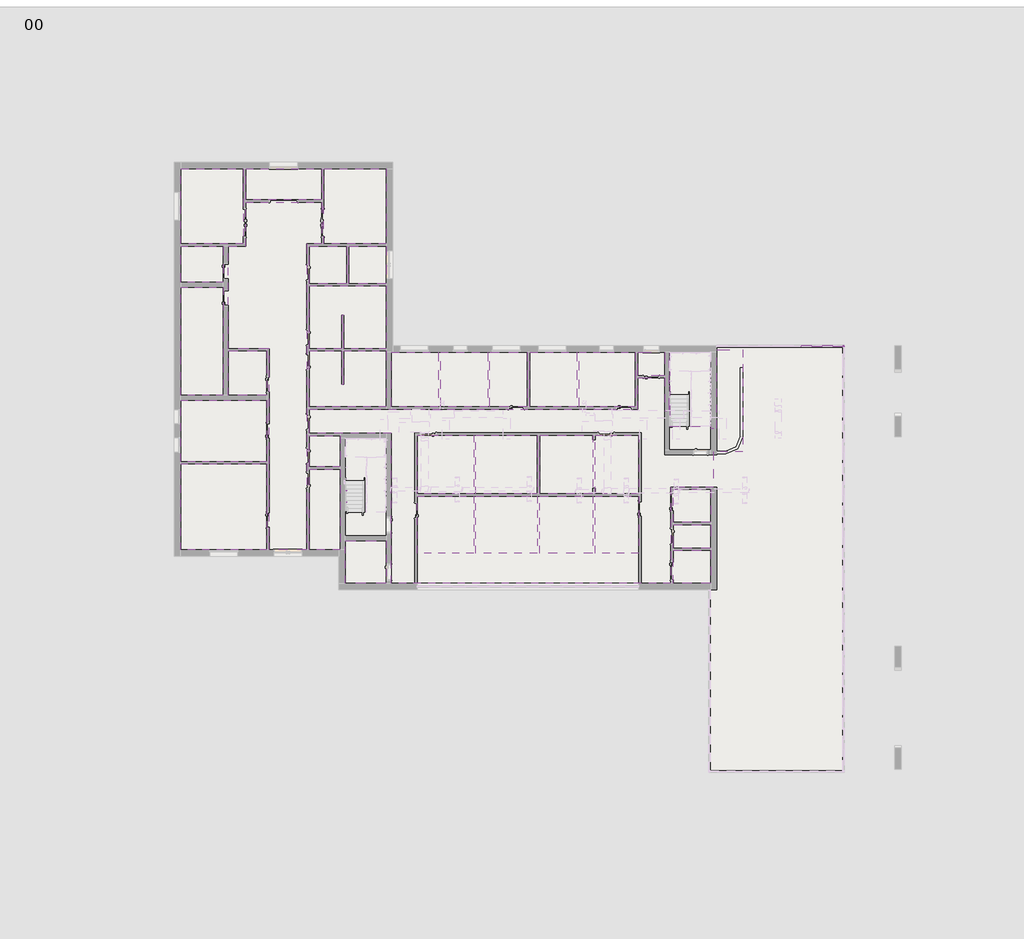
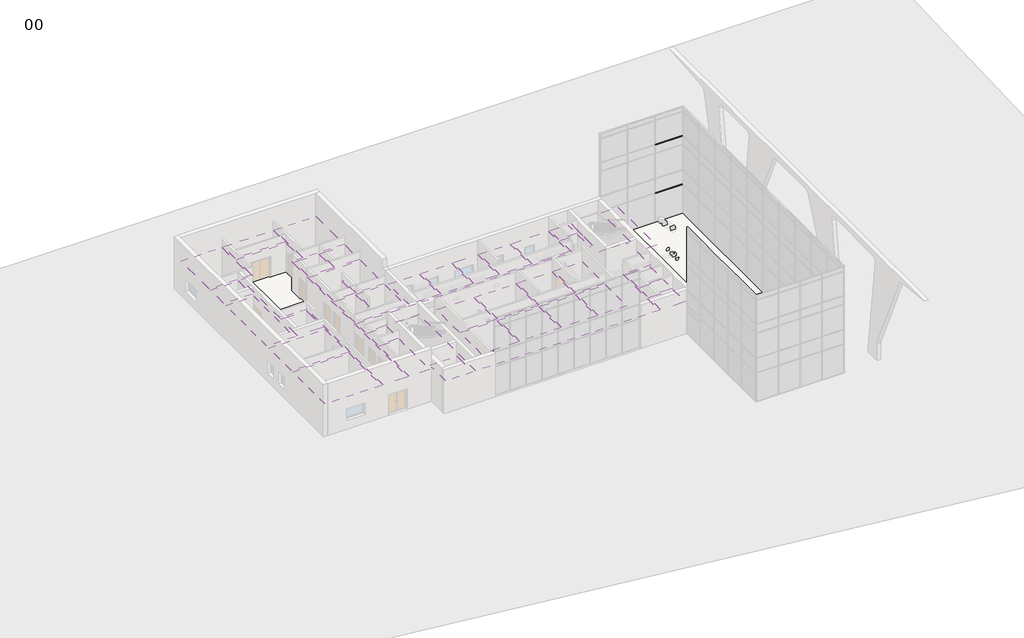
# One storey, part 8 of 12: 36 coverings, 5 members, 4 proxies, 1 slab.
"""IFC4 building model written with IfcOpenShell, lengths in millimetres."""

from ifc_helpers import new_model, si_unit, frame, origin, place, context, project, spatial, polyline, outline, extrude, transform, mapped, element, save
from components import support_circular_support_bend_943144f1, rectangular_mullion_curtainwallmullion_rectangular_generic_83e55909, rectangular_mullion_curtainwallmullion_rectangular_generic_2e425acd, rectangular_mullion_curtainwallmullion_rectangular_generic_3bdb59d8, rectangular_mullion_curtainwallmullion_rectangular_generic_d47b8a9d

model = new_model("IFC4")

# Units and contexts
model_context = context("Model", 3, world=origin())
ifc_project = project(units=[si_unit("LENGTHUNIT", "METRE", prefix="MILLI")], contexts=[model_context])

# Site, building, storey
site = spatial("IfcSite", under=ifc_project)
building = spatial("IfcBuilding", under=site)
storey = spatial("IfcBuildingStorey", under=building, Name="00", Elevation=0.0)

# Proxies
placement = place(None, origin())
support_circular_support_bend_shape = support_circular_support_bend_943144f1(model_context)
element("IfcBuildingElementProxy", 1, Name="Support_ Circular : Support_Bend", ObjectType="Support_ Circular : Support_Bend", at=placement, inside=storey, context=model_context, shape_type="MappedRepresentation", body=[
    mapped(support_circular_support_bend_shape, transform((422426.7206883, -391834.0026386, 1050.0), x_axis=(1.0, 0.0, 0.0), y_axis=(0.0, 1.0, 0.0), z_axis=(0.0, 0.0, 1.0))),
])
element("IfcBuildingElementProxy", 2, Name="Support_ Circular : Support_Bend", ObjectType="Support_ Circular : Support_Bend", at=placement, inside=storey, context=model_context, shape_type="MappedRepresentation", body=[
    mapped(support_circular_support_bend_shape, transform((422506.7206883, -391150.1319314, 1384.3224243), x_axis=(0.0, 1.0, 0.0), y_axis=(-1.0, 0.0, 0.0), z_axis=(0.0, 0.0, 1.0))),
])
element("IfcBuildingElementProxy", 3, Name="Support_ Circular : Support_Bend", ObjectType="Support_ Circular : Support_Bend", at=placement, inside=storey, context=model_context, shape_type="MappedRepresentation", body=[
    mapped(support_circular_support_bend_shape, transform((422506.7206883, -390406.2122145, 1830.6742544), x_axis=(0.0, 1.0, 0.0), y_axis=(-1.0, 0.0, 0.0), z_axis=(0.0, 0.0, 1.0))),
])
element("IfcBuildingElementProxy", 4, Name="Support_ Circular : Support_Bend", ObjectType="Support_ Circular : Support_Bend", at=placement, inside=storey, context=model_context, shape_type="MappedRepresentation", body=[
    mapped(support_circular_support_bend_shape, transform((422426.7206883, -391834.0026386, 1050.0), x_axis=(1.0, 0.0, 0.0), y_axis=(0.0, 1.0, 0.0), z_axis=(0.0, 0.0, 1.0))),
])

# Coverings
element("IfcCovering", 5, ObjectType="Ceiling_CompoundGeneric", at=placement, inside=storey, context=model_context, shape_type="SweptSolid", body=[
    extrude(outline(polyline([(443102.3206883, -385283.1646258), (443102.3206883, -383693.3886483), (443122.3206883, -383693.3886483), (443122.3206883, -386275.0026386), (445738.3206883, -386275.0026386), (445738.3206883, -386408.0026386), (446140.3206883, -386408.0026386), (446140.3206883, -381395.0026386), (447790.3206883, -381395.0026386), (447790.3206883, -387908.0026386), (445893.3206883, -387908.0026386), (445893.3206883, -390178.0026386), (443188.3206883, -390178.0026386), (443188.3206883, -396328.0026386), (425322.3206883, -396328.0026386), (425322.3206883, -386739.0026386), (422221.3206883, -386739.0026386), (420062.3206883, -386739.0026386), (420062.3206883, -385199.0026386), (425167.3206883, -385199.0026386), (441072.3206883, -385199.0026386), (441072.3206883, -383200.0026386), (442792.3206883, -383200.0026386), (442792.3206883, -385283.1646258), (443102.3206883, -385283.1646258)]), holes=[polyline([(426822.3206883, -394544.0026386), (441292.3206883, -394544.0026386), (441292.3206883, -386699.0026386), (426822.3206883, -386699.0026386), (426822.3206883, -394544.0026386)])]), frame((0.0, 0.0, 3000.0), z_axis=(0.0, 0.0, 1.0), x_axis=(1.0, 0.0, 0.0)), (0.0, 0.0, 1.0), 52.0),
])
element("IfcCovering", 6, ObjectType="Ceiling_CompoundGeneric", at=placement, inside=storey, context=model_context, shape_type="SweptSolid", body=[
    extrude(outline(polyline([(411860.3206883, -374614.0026386), (411860.3206883, -369815.0026386), (415860.3206883, -369815.0026386), (415860.3206883, -374614.0026386), (411860.3206883, -374614.0026386)])), frame((0.0, 0.0, 3000.0), z_axis=(0.0, 0.0, 1.0), x_axis=(1.0, 0.0, 0.0)), (0.0, 0.0, 1.0), 52.0),
])
element("IfcCovering", 7, ObjectType="Ceiling_CompoundGeneric", at=placement, inside=storey, context=model_context, shape_type="SweptSolid", body=[
    extrude(outline(polyline([(416010.3206883, -369815.0026386), (420862.3206883, -369815.0026386), (420862.3206883, -371815.0026386), (416010.3206883, -371815.0026386), (416010.3206883, -369815.0026386)])), frame((0.0, 0.0, 3000.0), z_axis=(0.0, 0.0, 1.0), x_axis=(1.0, 0.0, 0.0)), (0.0, 0.0, 1.0), 52.0),
])
element("IfcCovering", 8, ObjectType="Ceiling_CompoundGeneric", at=placement, inside=storey, context=model_context, shape_type="SweptSolid", body=[
    extrude(outline(polyline([(421012.3206883, -369815.0026386), (425012.3206883, -369815.0026386), (425012.3206883, -374614.0026386), (421012.3206883, -374614.0026386), (421012.3206883, -369815.0026386)])), frame((0.0, 0.0, 3000.0), z_axis=(0.0, 0.0, 1.0), x_axis=(1.0, 0.0, 0.0)), (0.0, 0.0, 1.0), 52.0),
])
element("IfcCovering", 9, ObjectType="Ceiling_CompoundGeneric", at=placement, inside=storey, context=model_context, shape_type="SweptSolid", body=[
    extrude(outline(polyline([(425012.3206883, -374764.0026386), (425012.3206883, -377164.0026386), (422612.3206883, -377164.0026386), (422612.3206883, -374764.0026386), (425012.3206883, -374764.0026386)])), frame((0.0, 0.0, 3000.0), z_axis=(0.0, 0.0, 1.0), x_axis=(1.0, 0.0, 0.0)), (0.0, 0.0, 1.0), 52.0),
])
element("IfcCovering", 10, ObjectType="Ceiling_CompoundGeneric", at=placement, inside=storey, context=model_context, shape_type="SweptSolid", body=[
    extrude(outline(polyline([(422462.3206883, -377164.0026386), (420062.3206883, -377164.0026386), (420062.3206883, -374764.0026386), (422462.3206883, -374764.0026386), (422462.3206883, -377164.0026386)])), frame((0.0, 0.0, 3000.0), z_axis=(0.0, 0.0, 1.0), x_axis=(1.0, 0.0, 0.0)), (0.0, 0.0, 1.0), 52.0),
])
element("IfcCovering", 11, ObjectType="Ceiling_CompoundGeneric", at=placement, inside=storey, context=model_context, shape_type="SweptSolid", body=[
    extrude(outline(polyline([(425012.3206883, -377314.0026386), (425012.3206883, -381320.0026386), (422296.3206883, -381320.0026386), (422296.3206883, -379195.0026386), (422146.3206883, -379195.0026386), (422146.3206883, -381320.0026386), (420062.3206883, -381320.0026386), (420062.3206883, -377314.0026386), (425012.3206883, -377314.0026386)])), frame((0.0, 0.0, 3000.0), z_axis=(0.0, 0.0, 1.0), x_axis=(1.0, 0.0, 0.0)), (0.0, 0.0, 1.0), 52.0),
])
element("IfcCovering", 12, ObjectType="Ceiling_CompoundGeneric", at=placement, inside=storey, context=model_context, shape_type="SweptSolid", body=[
    extrude(outline(polyline([(425012.3206883, -381470.0026386), (425012.3206883, -385049.0026386), (420062.3206883, -385049.0026386), (420062.3206883, -381470.0026386), (422146.3206883, -381470.0026386), (422146.3206883, -383595.0026386), (422296.3206883, -383595.0026386), (422296.3206883, -381470.0026386), (425012.3206883, -381470.0026386)])), frame((0.0, 0.0, 3000.0), z_axis=(0.0, 0.0, 1.0), x_axis=(1.0, 0.0, 0.0)), (0.0, 0.0, 1.0), 52.0),
])
element("IfcCovering", 13, ObjectType="Ceiling_CompoundGeneric", at=placement, inside=storey, context=model_context, shape_type="SweptSolid", body=[
    extrude(outline(polyline([(420062.3206883, -386889.0026386), (422066.3206883, -386889.0026386), (422066.3206883, -388889.0026386), (420062.3206883, -388889.0026386), (420062.3206883, -386889.0026386)])), frame((0.0, 0.0, 3000.0), z_axis=(0.0, 0.0, 1.0), x_axis=(1.0, 0.0, 0.0)), (0.0, 0.0, 1.0), 52.0),
])
element("IfcCovering", 14, ObjectType="Ceiling_CompoundGeneric", at=placement, inside=storey, context=model_context, shape_type="SweptSolid", body=[
    extrude(outline(polyline([(422066.3206883, -394194.0026386), (420062.3206883, -394194.0026386), (420062.3206883, -389039.0026386), (422066.3206883, -389039.0026386), (422066.3206883, -394194.0026386)])), frame((0.0, 0.0, 3000.0), z_axis=(0.0, 0.0, 1.0), x_axis=(1.0, 0.0, 0.0)), (0.0, 0.0, 1.0), 52.0),
])
element("IfcCovering", 15, ObjectType="Ceiling_CompoundGeneric", at=placement, inside=storey, context=model_context, shape_type="SweptSolid", body=[
    extrude(outline(polyline([(411860.3206883, -394194.0026386), (411860.3206883, -388694.0026386), (417360.3206883, -388694.0026386), (417360.3206883, -394194.0026386), (411860.3206883, -394194.0026386)])), frame((0.0, 0.0, 3000.0), z_axis=(0.0, 0.0, 1.0), x_axis=(1.0, 0.0, 0.0)), (0.0, 0.0, 1.0), 52.0),
])
element("IfcCovering", 16, ObjectType="Ceiling_CompoundGeneric", at=placement, inside=storey, context=model_context, shape_type="SweptSolid", body=[
    extrude(outline(polyline([(411860.3206883, -388544.0026386), (411860.3206883, -384624.0026386), (417360.3206883, -384624.0026386), (417360.3206883, -388544.0026386), (411860.3206883, -388544.0026386)])), frame((0.0, 0.0, 3000.0), z_axis=(0.0, 0.0, 1.0), x_axis=(1.0, 0.0, 0.0)), (0.0, 0.0, 1.0), 52.0),
])
element("IfcCovering", 17, ObjectType="Ceiling_CompoundGeneric", at=placement, inside=storey, context=model_context, shape_type="SweptSolid", body=[
    extrude(outline(polyline([(411860.3206883, -384314.0026386), (411860.3206883, -377394.0026386), (414580.3206883, -377394.0026386), (414580.3206883, -384314.0026386), (411860.3206883, -384314.0026386)])), frame((0.0, 0.0, 3000.0), z_axis=(0.0, 0.0, 1.0), x_axis=(1.0, 0.0, 0.0)), (0.0, 0.0, 1.0), 52.0),
])
element("IfcCovering", 18, ObjectType="Ceiling_CompoundGeneric", at=placement, inside=storey, context=model_context, shape_type="SweptSolid", body=[
    extrude(outline(polyline([(414890.3206883, -381470.0026386), (417360.3206883, -381470.0026386), (417360.3206883, -384314.0026386), (414890.3206883, -384314.0026386), (414890.3206883, -381470.0026386)])), frame((0.0, 0.0, 3000.0), z_axis=(0.0, 0.0, 1.0), x_axis=(1.0, 0.0, 0.0)), (0.0, 0.0, 1.0), 52.0),
])
element("IfcCovering", 19, ObjectType="Ceiling_CompoundGeneric", at=placement, inside=storey, context=model_context, shape_type="SweptSolid", body=[
    extrude(outline(polyline([(414580.3206883, -377084.0026386), (411860.3206883, -377084.0026386), (411860.3206883, -374764.0026386), (414580.3206883, -374764.0026386), (414580.3206883, -377084.0026386)])), frame((0.0, 0.0, 3000.0), z_axis=(0.0, 0.0, 1.0), x_axis=(1.0, 0.0, 0.0)), (0.0, 0.0, 1.0), 52.0),
])
element("IfcCovering", 20, ObjectType="Ceiling_CompoundGeneric", at=placement, inside=storey, context=model_context, shape_type="SweptSolid", body=[
    extrude(outline(polyline([(411860.3206883, -374614.0026386), (411860.3206883, -369815.0026386), (415860.3206883, -369815.0026386), (415860.3206883, -374614.0026386), (411860.3206883, -374614.0026386)])), frame((0.0, 0.0, 3000.0), z_axis=(0.0, 0.0, 1.0), x_axis=(1.0, 0.0, 0.0)), (0.0, 0.0, 1.0), 52.0),
])
element("IfcCovering", 21, ObjectType="Ceiling_CompoundGeneric", at=placement, inside=storey, context=model_context, shape_type="SweptSolid", body=[
    extrude(outline(polyline([(419912.3206883, -386814.0026386), (419912.3206883, -394194.0026386), (417510.3206883, -394194.0026386), (417510.3206883, -381320.0026386), (414890.3206883, -381320.0026386), (414890.3206883, -374764.0026386), (416010.3206883, -374764.0026386), (416010.3206883, -371965.0026386), (420862.3206883, -371965.0026386), (420862.3206883, -374614.0026386), (419912.3206883, -374614.0026386), (419912.3206883, -377239.0026386), (419912.3206883, -385124.0026386), (419912.3206883, -386814.0026386)])), frame((0.0, 0.0, 3000.0), z_axis=(0.0, 0.0, 1.0), x_axis=(1.0, 0.0, 0.0)), (0.0, 0.0, 1.0), 52.0),
])
element("IfcCovering", 22, ObjectType="Ceiling_CompoundGeneric", at=placement, inside=storey, context=model_context, shape_type="SweptSolid", body=[
    extrude(outline(polyline([(425012.3206883, -396328.0026386), (422376.3206883, -396328.0026386), (422376.3206883, -394395.0026386), (422376.3206883, -393609.0026386), (425012.3206883, -393609.0026386), (425012.3206883, -396328.0026386)])), frame((0.0, 0.0, 3000.0), z_axis=(0.0, 0.0, 1.0), x_axis=(1.0, 0.0, 0.0)), (0.0, 0.0, 1.0), 52.0),
])
element("IfcCovering", 23, ObjectType="Ceiling_CompoundGeneric", at=placement, inside=storey, context=model_context, shape_type="SweptSolid", body=[
    extrude(outline(polyline([(426972.3206883, -394394.0026386), (426972.3206883, -390768.0026386), (430578.3206883, -390768.0026386), (430578.3206883, -394394.0026386), (426972.3206883, -394394.0026386)])), frame((0.0, 0.0, 3000.0), z_axis=(0.0, 0.0, 1.0), x_axis=(1.0, 0.0, 0.0)), (0.0, 0.0, 1.0), 52.0),
])
element("IfcCovering", 24, ObjectType="Ceiling_CompoundGeneric", at=placement, inside=storey, context=model_context, shape_type="SweptSolid", body=[
    extrude(outline(polyline([(434652.8762438, -394394.0026386), (430728.3206883, -394394.0026386), (430728.3206883, -390768.0026386), (434652.8762438, -390768.0026386), (434652.8762438, -394394.0026386)])), frame((0.0, 0.0, 3000.0), z_axis=(0.0, 0.0, 1.0), x_axis=(1.0, 0.0, 0.0)), (0.0, 0.0, 1.0), 52.0),
])
element("IfcCovering", 25, ObjectType="Ceiling_CompoundGeneric", at=placement, inside=storey, context=model_context, shape_type="SweptSolid", body=[
    extrude(outline(polyline([(438198.3206883, -394394.0026386), (434802.8762438, -394394.0026386), (434802.8762438, -390768.0026386), (438198.3206883, -390768.0026386), (438198.3206883, -394394.0026386)])), frame((0.0, 0.0, 3000.0), z_axis=(0.0, 0.0, 1.0), x_axis=(1.0, 0.0, 0.0)), (0.0, 0.0, 1.0), 52.0),
])
element("IfcCovering", 26, ObjectType="Ceiling_CompoundGeneric", at=placement, inside=storey, context=model_context, shape_type="SweptSolid", body=[
    extrude(outline(polyline([(441142.3206883, -394394.0026386), (438348.3206883, -394394.0026386), (438348.3206883, -390768.0026386), (441142.3206883, -390768.0026386), (441142.3206883, -394394.0026386)])), frame((0.0, 0.0, 3000.0), z_axis=(0.0, 0.0, 1.0), x_axis=(1.0, 0.0, 0.0)), (0.0, 0.0, 1.0), 52.0),
])
element("IfcCovering", 27, ObjectType="Ceiling_CompoundGeneric", at=placement, inside=storey, context=model_context, shape_type="SweptSolid", body=[
    extrude(outline(polyline([(438348.3206883, -390618.0026386), (438348.3206883, -386849.0026386), (441142.3206883, -386849.0026386), (441142.3206883, -390618.0026386), (438348.3206883, -390618.0026386)])), frame((0.0, 0.0, 3000.0), z_axis=(0.0, 0.0, 1.0), x_axis=(1.0, 0.0, 0.0)), (0.0, 0.0, 1.0), 52.0),
])
element("IfcCovering", 28, ObjectType="Ceiling_CompoundGeneric", at=placement, inside=storey, context=model_context, shape_type="SweptSolid", body=[
    extrude(outline(polyline([(434802.8762438, -390618.0026386), (434802.8762438, -386849.0026386), (438198.3206883, -386849.0026386), (438198.3206883, -390618.0026386), (434802.8762438, -390618.0026386)])), frame((0.0, 0.0, 3000.0), z_axis=(0.0, 0.0, 1.0), x_axis=(1.0, 0.0, 0.0)), (0.0, 0.0, 1.0), 52.0),
])
element("IfcCovering", 29, ObjectType="Ceiling_CompoundGeneric", at=placement, inside=storey, context=model_context, shape_type="SweptSolid", body=[
    extrude(outline(polyline([(430728.3206883, -390618.0026386), (430728.3206883, -386849.0026386), (434652.8762438, -386849.0026386), (434652.8762438, -390618.0026386), (430728.3206883, -390618.0026386)])), frame((0.0, 0.0, 3000.0), z_axis=(0.0, 0.0, 1.0), x_axis=(1.0, 0.0, 0.0)), (0.0, 0.0, 1.0), 52.0),
])
element("IfcCovering", 30, ObjectType="Ceiling_CompoundGeneric", at=placement, inside=storey, context=model_context, shape_type="SweptSolid", body=[
    extrude(outline(polyline([(426972.3206883, -386849.0026386), (430578.3206883, -386849.0026386), (430578.3206883, -390618.0026386), (426972.3206883, -390618.0026386), (426972.3206883, -386849.0026386)])), frame((0.0, 0.0, 3000.0), z_axis=(0.0, 0.0, 1.0), x_axis=(1.0, 0.0, 0.0)), (0.0, 0.0, 1.0), 52.0),
])
element("IfcCovering", 31, ObjectType="Ceiling_CompoundGeneric", at=placement, inside=storey, context=model_context, shape_type="SweptSolid", body=[
    extrude(outline(polyline([(445738.3206883, -394228.0026386), (445738.3206883, -396328.0026386), (443338.3206883, -396328.0026386), (443338.3206883, -394228.0026386), (445738.3206883, -394228.0026386)])), frame((0.0, 0.0, 3000.0), z_axis=(0.0, 0.0, 1.0), x_axis=(1.0, 0.0, 0.0)), (0.0, 0.0, 1.0), 52.0),
])
element("IfcCovering", 32, ObjectType="Ceiling_CompoundGeneric", at=placement, inside=storey, context=model_context, shape_type="SweptSolid", body=[
    extrude(outline(polyline([(445738.3206883, -392578.0026386), (445738.3206883, -394078.0026386), (443338.3206883, -394078.0026386), (443338.3206883, -392578.0026386), (445738.3206883, -392578.0026386)])), frame((0.0, 0.0, 3000.0), z_axis=(0.0, 0.0, 1.0), x_axis=(1.0, 0.0, 0.0)), (0.0, 0.0, 1.0), 52.0),
])
element("IfcCovering", 33, ObjectType="Ceiling_CompoundGeneric", at=placement, inside=storey, context=model_context, shape_type="SweptSolid", body=[
    extrude(outline(polyline([(445738.3206883, -390328.0026386), (445738.3206883, -392428.0026386), (443338.3206883, -392428.0026386), (443338.3206883, -390328.0026386), (445738.3206883, -390328.0026386)])), frame((0.0, 0.0, 3000.0), z_axis=(0.0, 0.0, 1.0), x_axis=(1.0, 0.0, 0.0)), (0.0, 0.0, 1.0), 52.0),
])
element("IfcCovering", 34, ObjectType="Ceiling_CompoundGeneric", at=placement, inside=storey, context=model_context, shape_type="SweptSolid", body=[
    extrude(outline(polyline([(443102.3206883, -383550.0026386), (443102.3206883, -381550.0026386), (443122.3206883, -381550.0026386), (443122.3206883, -383550.0026386), (443102.3206883, -383550.0026386)])), frame((0.0, 0.0, 3000.0), z_axis=(0.0, 0.0, 1.0), x_axis=(1.0, 0.0, 0.0)), (0.0, 0.0, 1.0), 52.0),
])
element("IfcCovering", 35, ObjectType="Ceiling_CompoundGeneric", at=placement, inside=storey, context=model_context, shape_type="SweptSolid", body=[
    extrude(outline(polyline([(441072.3206883, -381550.0026386), (442792.3206883, -381550.0026386), (442792.3206883, -383050.0026386), (441072.3206883, -383050.0026386), (441072.3206883, -381550.0026386)])), frame((0.0, 0.0, 3000.0), z_axis=(0.0, 0.0, 1.0), x_axis=(1.0, 0.0, 0.0)), (0.0, 0.0, 1.0), 52.0),
])
element("IfcCovering", 36, ObjectType="Ceiling_CompoundGeneric", at=placement, inside=storey, context=model_context, shape_type="SweptSolid", body=[
    extrude(outline(polyline([(437322.3206883, -381550.0026386), (440922.3206883, -381550.0026386), (440922.3206883, -385049.0026386), (437322.3206883, -385049.0026386), (437322.3206883, -381550.0026386)])), frame((0.0, 0.0, 3000.0), z_axis=(0.0, 0.0, 1.0), x_axis=(1.0, 0.0, 0.0)), (0.0, 0.0, 1.0), 52.0),
])
element("IfcCovering", 37, ObjectType="Ceiling_CompoundGeneric", at=placement, inside=storey, context=model_context, shape_type="SweptSolid", body=[
    extrude(outline(polyline([(434172.3206883, -381550.0026386), (437172.3206883, -381550.0026386), (437172.3206883, -385049.0026386), (434172.3206883, -385049.0026386), (434172.3206883, -381550.0026386)])), frame((0.0, 0.0, 3000.0), z_axis=(0.0, 0.0, 1.0), x_axis=(1.0, 0.0, 0.0)), (0.0, 0.0, 1.0), 52.0),
])
element("IfcCovering", 38, ObjectType="Ceiling_CompoundGeneric", at=placement, inside=storey, context=model_context, shape_type="SweptSolid", body=[
    extrude(outline(polyline([(431622.3206883, -381550.0026386), (434022.3206883, -381550.0026386), (434022.3206883, -385049.0026386), (431622.3206883, -385049.0026386), (431622.3206883, -381550.0026386)])), frame((0.0, 0.0, 3000.0), z_axis=(0.0, 0.0, 1.0), x_axis=(1.0, 0.0, 0.0)), (0.0, 0.0, 1.0), 52.0),
])
element("IfcCovering", 39, ObjectType="Ceiling_CompoundGeneric", at=placement, inside=storey, context=model_context, shape_type="SweptSolid", body=[
    extrude(outline(polyline([(428472.3206883, -381550.0026386), (431472.3206883, -381550.0026386), (431472.3206883, -385049.0026386), (428472.3206883, -385049.0026386), (428472.3206883, -381550.0026386)])), frame((0.0, 0.0, 3000.0), z_axis=(0.0, 0.0, 1.0), x_axis=(1.0, 0.0, 0.0)), (0.0, 0.0, 1.0), 52.0),
])
element("IfcCovering", 40, ObjectType="Ceiling_CompoundGeneric", at=placement, inside=storey, context=model_context, shape_type="SweptSolid", body=[
    extrude(outline(polyline([(425322.3206883, -385049.0026386), (425322.3206883, -381550.0026386), (428322.3206883, -381550.0026386), (428322.3206883, -385049.0026386), (425322.3206883, -385049.0026386)])), frame((0.0, 0.0, 3000.0), z_axis=(0.0, 0.0, 1.0), x_axis=(1.0, 0.0, 0.0)), (0.0, 0.0, 1.0), 52.0),
])

# Members
rectangular_mullion_curtainwallmullion_rectangular_generic_shape = rectangular_mullion_curtainwallmullion_rectangular_generic_83e55909(model_context)
element("IfcMember", 41, ObjectType="Rectangular Mullion : CurtainWallMullion_Rectangular_Generic", at=placement, inside=storey, context=model_context, shape_type="MappedRepresentation", body=[
    mapped(rectangular_mullion_curtainwallmullion_rectangular_generic_shape, transform((454246.3206883, -381170.0026386, 8000.0), x_axis=(1.0, 0.0, 0.0), y_axis=(0.0, -1.0, 0.0), z_axis=(0.0, 0.0, -1.0))),
])
rectangular_mullion_curtainwallmullion_rectangular_generic_2_shape = rectangular_mullion_curtainwallmullion_rectangular_generic_2e425acd(model_context)
element("IfcMember", 42, ObjectType="Rectangular Mullion : CurtainWallMullion_Rectangular_Generic", at=placement, inside=storey, context=model_context, shape_type="MappedRepresentation", body=[
    mapped(rectangular_mullion_curtainwallmullion_rectangular_generic_2_shape, transform((454196.3206883, -381170.0026386, 8000.0), x_axis=(0.0, 0.0, 1.0), y_axis=(0.0, -1.0, 0.0), z_axis=(1.0, 0.0, 0.0))),
])
element("IfcMember", 43, ObjectType="Rectangular Mullion : CurtainWallMullion_Rectangular_Generic", at=placement, inside=storey, context=model_context, shape_type="MappedRepresentation", body=[
    mapped(rectangular_mullion_curtainwallmullion_rectangular_generic_2_shape, transform((454196.3206883, -381170.0026386, 3000.0), x_axis=(0.0, 0.0, 1.0), y_axis=(0.0, -1.0, 0.0), z_axis=(1.0, 0.0, 0.0))),
])
rectangular_mullion_curtainwallmullion_rectangular_generic_3_shape = rectangular_mullion_curtainwallmullion_rectangular_generic_3bdb59d8(model_context)
element("IfcMember", 44, ObjectType="Rectangular Mullion : CurtainWallMullion_Rectangular_Generic", at=placement, inside=storey, context=model_context, shape_type="MappedRepresentation", body=[
    mapped(rectangular_mullion_curtainwallmullion_rectangular_generic_3_shape, transform((454246.3206883, -381170.0026386, 3000.0), x_axis=(1.0, 0.0, 0.0), y_axis=(0.0, -1.0, 0.0), z_axis=(0.0, 0.0, -1.0))),
])
rectangular_mullion_curtainwallmullion_rectangular_generic_4_shape = rectangular_mullion_curtainwallmullion_rectangular_generic_d47b8a9d(model_context)
element("IfcMember", 45, ObjectType="Rectangular Mullion : CurtainWallMullion_Rectangular_Generic", at=placement, inside=storey, context=model_context, shape_type="MappedRepresentation", body=[
    mapped(rectangular_mullion_curtainwallmullion_rectangular_generic_4_shape, transform((454246.3206883, -381170.0026386, 3000.0), x_axis=(0.0, 1.0, 0.0), y_axis=(-1.0, 0.0, 0.0), z_axis=(0.0, 0.0, 1.0))),
])

# Slab
element("IfcSlab", 46, ObjectType="Floor_WSUK_Bearing", at=placement, inside=storey, context=model_context, shape_type="SweptSolid", body=[
    extrude(outline(polyline([(425092.3206883, -369735.0026386), (425092.3206883, -381470.0026386), (445818.3206883, -381470.0026386), (445818.3206883, -388030.0026386), (446140.3206883, -388030.0026386), (446140.3206883, -381170.0026386), (454246.3206883, -381170.0026386), (454246.3206883, -408366.0026386), (445668.3206883, -408366.0026386), (445668.3206883, -396718.0026386), (446140.3206883, -396718.0026386), (446140.3206883, -390178.0026386), (445818.3206883, -390178.0026386), (445818.3206883, -396408.0026386), (422296.3206883, -396408.0026386), (422296.3206883, -394274.0026386), (411780.3206883, -394274.0026386), (411780.3206883, -369735.0026386), (425092.3206883, -369735.0026386)])), frame((0.0, 0.0, -602.0), z_axis=(0.0, 0.0, 1.0), x_axis=(1.0, 0.0, 0.0)), (0.0, 0.0, 1.0), 602.0),
])

save(model, "model.ifc")
